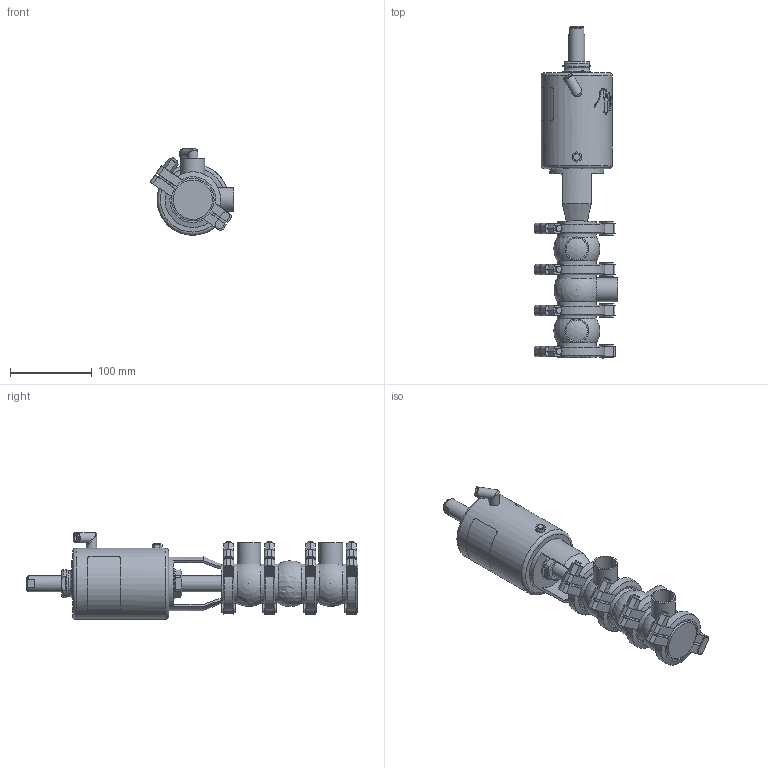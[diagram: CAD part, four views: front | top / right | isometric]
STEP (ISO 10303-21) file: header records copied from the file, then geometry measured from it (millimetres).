
FILE_DESCRIPTION (( 'STEP AP214' ), '1' );
FILE_NAME ('INNOVA L J W DIN 025 T1 AS NC_10.241.16.0013.STEP', '2024-08-07T07:48:08', ( '' ), ( '' ), 'SwSTEP 2.0', 'SolidWorks 2023', '' );
FILE_SCHEMA (( 'AUTOMOTIVE_DESIGN' ));
Length unit declared in the file: millimetre
Products named in the file (6): INNOVA L J W DIN 025 T1 AS NC_10.241.16.0013; 10.240.15.0001_DN 025; 10.240.15.0014_T1 AS P180; 10.241.15.0001_DIN 025; 10.240.15.0010_DN 025; 10.240.15.0006_DIN 025
Assembly tree (10 placements, depth 2):
  INNOVA L J W DIN 025 T1 AS NC_10.241.16.0013
    10.240.15.0006_DIN 025  x3
    10.240.15.0010_DN 025
    10.240.15.0014_T1 AS P180
    10.240.15.0001_DN 025  x4
    10.241.15.0001_DIN 025
Bounding box: 101.94 x 405.09 x 105.75 mm (x, y, z)
Volume: 1257644.4 mm3; surface area: 196727.8 mm2
Topology: 11 solids, 11 shells, 537 faces, 1428 edges, 928 vertices
Faces by surface type: plane 260, cylinder 137, bspline 80, cone 50, sphere 6, torus 4
Full cylindrical faces by diameter (mm): 6.15 x1, 8 x9, 8.5 x1, 10.5 x1, 12.5 x3, 16 x1, 20 x2, 26 x3, 29 x3, 31 x1, 34.5 x2, 36.5 x1, 48 x8, 59.7 x8, 66 x1, 87 x1
Entity records: 19482 total; most frequent: CARTESIAN_POINT 10216, ORIENTED_EDGE 1626, DIRECTION 1241, EDGE_CURVE 813, VERTEX_POINT 556, AXIS2_PLACEMENT_3D 472, EDGE_LOOP 401, FACE_OUTER_BOUND 365
